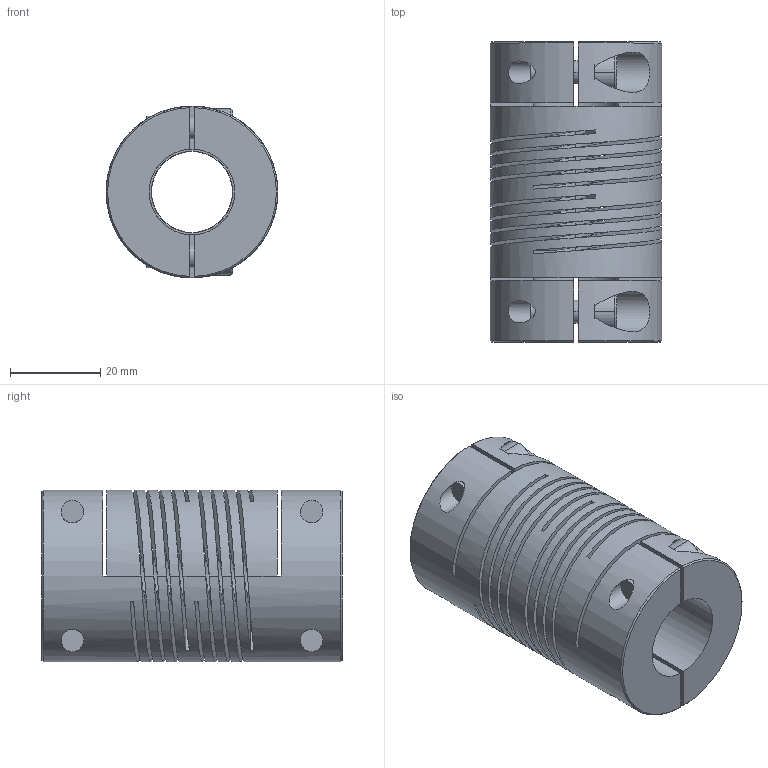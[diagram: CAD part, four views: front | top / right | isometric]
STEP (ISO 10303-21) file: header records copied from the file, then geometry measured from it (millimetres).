
FILE_DESCRIPTION((''),'2;1');
FILE_NAME('703_38','2006-12-06T',('Gary Melling'),(''),'PRO/ENGINEER BY PARAMETRIC TECHNOLOGY CORPORATION, 2006240','PRO/ENGINEER BY PARAMETRIC TECHNOLOGY CORPORATION, 2006240','');
FILE_SCHEMA(('CONFIG_CONTROL_DESIGN'));
Length unit declared in the file: millimetre
Products named in the file (1): 703_38
Bounding box: 38.1 x 66.7 x 38.1 mm (x, y, z)
Volume: 49433.9 mm3; surface area: 31835.3 mm2
Topology: 1 solids, 1 shells, 162 faces, 440 edges, 284 vertices
Faces by surface type: plane 78, cylinder 60, bspline 12, cone 12
Entity records: 7507 total; most frequent: CARTESIAN_POINT 3523, ORIENTED_EDGE 880, DIRECTION 716, EDGE_CURVE 440, VERTEX_POINT 284, VECTOR 240, LINE 240, AXIS2_PLACEMENT_3D 238
